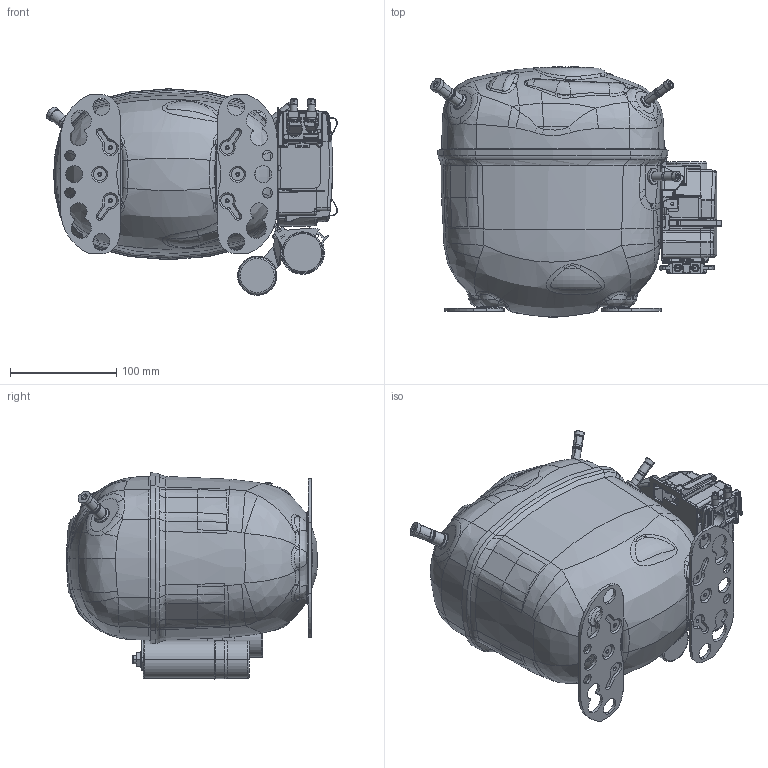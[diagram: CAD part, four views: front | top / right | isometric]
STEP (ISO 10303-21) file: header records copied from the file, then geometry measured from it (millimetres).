
FILE_DESCRIPTION((''),'2;1');
FILE_NAME('SCE_W2_D6_5_S9_6_ASM','2025-10-01T13:00:38',('SKHC0505'),(''),'CREO PARAMETRIC BY PTC INC, 2022162','CREO PARAMETRIC BY PTC INC, 2022162','');
FILE_SCHEMA(('AP242_MANAGED_MODEL_BASED_3D_ENGINEERING_MIM_LF { 1 0 10303 442 1 1 4 }'));
Products named in the file (45): 104B0409_SCE_HOUSING; 104B0321; 104B0378; 104B0480_AF0; 104B1046_ASM; 104B0516; 104B0480_AF1; 104B1461_ASM; 104B0517; 104B0480_AF2; 104B1462_ASM; 104B0504; 103N0537; 117-3617_BODY; 117-3617_PINS; 117-3617_GLASS_FUSED; 117-3617_ASM; 104B0673; 104B0635; 104B0677_BENT; 104B0687_BENT_ASM; 104B1471_HOUSING_ASSY_ASM; 104B0648_SCE_COVER; 104B0682_AF1; 104B0684_AF1; 104B1409_SCE_COVER_ASSY_AF0_ASM; 104B0594_AF0; 104B0592; 103N0328_JOCH_1; 103N0444_SCHRAUBE_1; 103N0425; 103N1007_ASM; 117U1035; 117U0457_PREMOUNT; 117A4510; 117U1036_ASM; 117-0313; 117-0301; 117-7118_MP2016; DIN_6798_A8_4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
Assembly tree (51 placements, depth 4):
  SCE_W2_D6_5_S9_6_ASM
    104B1471_HOUSING_ASSY_ASM
      104B0409_SCE_HOUSING
      104B0321  x2
      104B1046_ASM
        104B0378
        104B0480_AF0
      104B1461_ASM
        104B0516
        104B0480_AF1
      104B1462_ASM
        104B0517
        104B0480_AF2
      104B0504
      103N0537
      117-3617_ASM
        117-3617_BODY
        117-3617_PINS  x3
        117-3617_GLASS_FUSED  x3
      104B0687_BENT_ASM
        104B0673
        104B0635
        104B0677_BENT
    104B1409_SCE_COVER_ASSY_AF0_ASM
      104B0648_SCE_COVER
      104B0682_AF1
      104B0684_AF1
    104B0594_AF0
    104B0592  x2
    103N1007_ASM
      103N0328_JOCH_1
      103N0444_SCHRAUBE_1  x2
      103N0425
    117U1036_ASM
      117U1035
      117U0457_PREMOUNT
      117A4510
    117-0313
    117-0301
    117-7118_MP2016
    DIN_6798_A8_4
    ISO-4035_M8
    117U5351_ASSY_ASM
      117U5351_CAPACITOR
      103N0505_CLIP-PP-POM
Bounding box: 273.97 x 236.36 x 194.52 mm (x, y, z)
Volume: 819609.1 mm3; surface area: 496941.5 mm2
Topology: 41 solids, 41 shells, 4418 faces, 10907 edges, 6630 vertices
Faces by surface type: plane 1604, cylinder 1046, bspline 824, torus 340, cone 277, sphere 167, extrusion 132, revolution 28
Entity records: 204720 total; most frequent: CARTESIAN_POINT 81559, ORIENTED_EDGE 20686, DIRECTION 18136, EDGE_CURVE 10343, PRESENTATION_STYLE_ASSIGNMENT 8042, STYLED_ITEM 7973, CURVE_STYLE 7502, AXIS2_PLACEMENT_3D 6472
